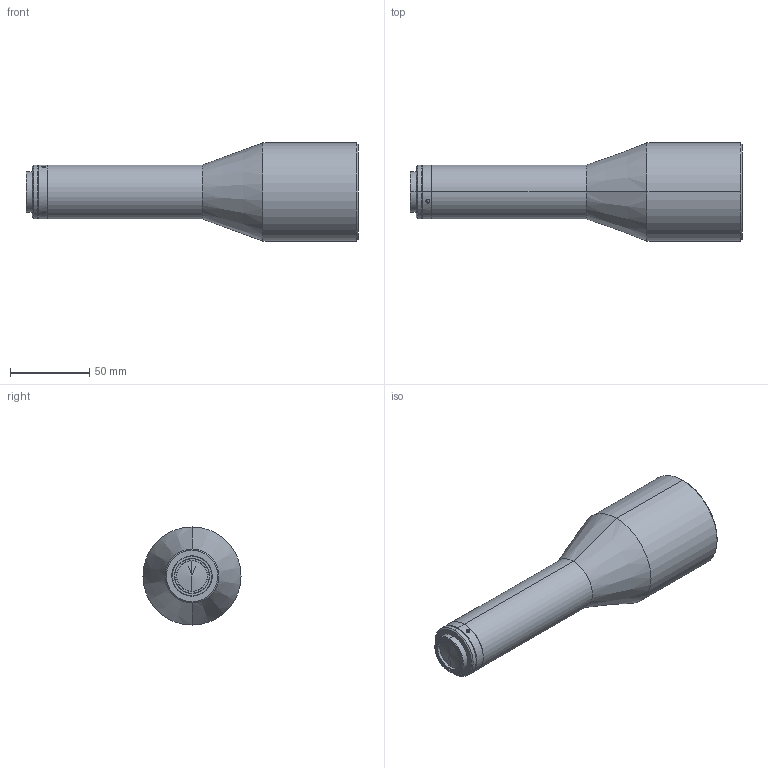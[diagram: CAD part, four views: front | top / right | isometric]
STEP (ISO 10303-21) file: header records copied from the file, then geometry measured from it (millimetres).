
FILE_DESCRIPTION (( 'STEP AP203' ), '1' );
FILE_NAME ('WWK05-220-110.STEP', '2019-12-03T05:54:09', ( 'Windows 蚚誧' ), ( '' ), 'SwSTEP 2.0', 'SolidWorks 2017', '' );
FILE_SCHEMA (( 'CONFIG_CONTROL_DESIGN' ));
Length unit declared in the file: millimetre
Products named in the file (1): WWK05-220-110
Bounding box: 209.67 x 62 x 62 mm (x, y, z)
Volume: 349687.2 mm3; surface area: 34068.4 mm2
Topology: 1 solids, 1 shells, 53 faces, 135 edges, 90 vertices
Faces by surface type: cylinder 25, cone 21, plane 7
Entity records: 2867 total; most frequent: CARTESIAN_POINT 1605, ORIENTED_EDGE 262, DIRECTION 210, EDGE_CURVE 131, VERTEX_POINT 90, AXIS2_PLACEMENT_3D 85, EDGE_LOOP 63, B_SPLINE_CURVE_WITH_KNOTS 60
